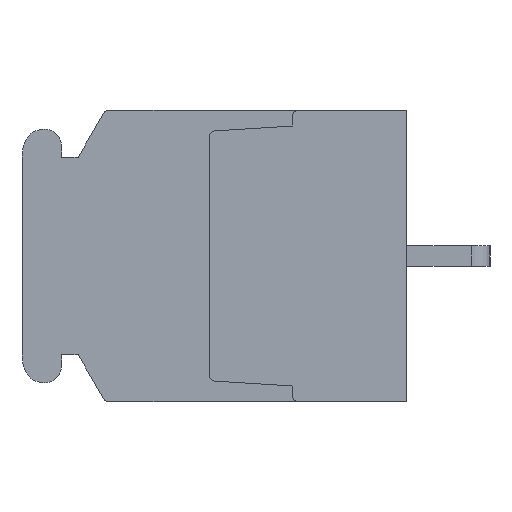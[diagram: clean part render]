
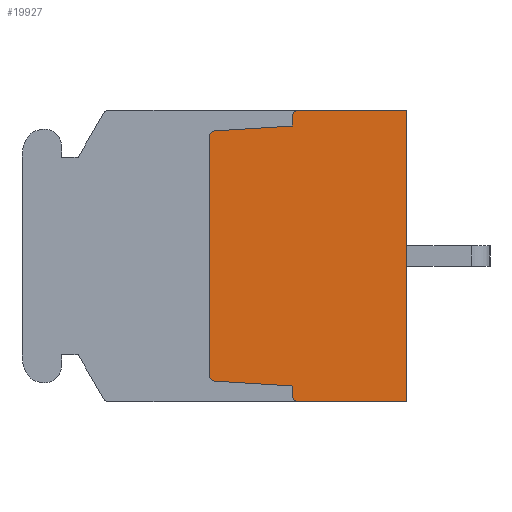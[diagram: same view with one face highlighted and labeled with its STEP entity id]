
A CAD part, left-side view. The second image highlights one B-rep face of the part: STEP entity #19927.
In plain terms, the highlighted planar face has unit normal (-1, 0, 0).
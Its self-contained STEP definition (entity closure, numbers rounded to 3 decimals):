
#970=CIRCLE('',#21394,0.3);
#971=CIRCLE('',#21395,0.3);
#972=CIRCLE('',#21396,0.3);
#973=CIRCLE('',#21397,0.3);
#1974=VERTEX_POINT('',#28392);
#1975=VERTEX_POINT('',#28394);
#1979=VERTEX_POINT('',#28440);
#1991=VERTEX_POINT('',#28467);
#2780=VERTEX_POINT('',#31447);
#2781=VERTEX_POINT('',#31448);
#2782=VERTEX_POINT('',#31450);
#2783=VERTEX_POINT('',#31452);
#2784=VERTEX_POINT('',#31454);
#2785=VERTEX_POINT('',#31456);
#2786=VERTEX_POINT('',#31459);
#2787=VERTEX_POINT('',#31461);
#3996=VECTOR('',#23461,1.);
#4036=VECTOR('',#23527,1.);
#4050=VECTOR('',#23542,1.);
#4954=VECTOR('',#25248,1.);
#4955=VECTOR('',#25251,1.);
#4956=VECTOR('',#25252,1.);
#4957=VECTOR('',#25257,1.);
#4958=VECTOR('',#25258,1.);
#6216=LINE('',#28393,#3996);
#6256=LINE('',#28468,#4036);
#6270=LINE('',#28495,#4050);
#7174=LINE('',#31449,#4954);
#7175=LINE('',#31453,#4955);
#7176=LINE('',#31455,#4956);
#7177=LINE('',#31460,#4957);
#7178=LINE('',#31462,#4958);
#8802=EDGE_CURVE('',#1974,#1975,#6216,.T.);
#8842=EDGE_CURVE('',#1991,#1979,#6256,.T.);
#8856=EDGE_CURVE('',#1979,#1974,#6270,.T.);
#10072=EDGE_CURVE('',#2780,#2781,#970,.T.);
#10073=EDGE_CURVE('',#2782,#2780,#7174,.T.);
#10074=EDGE_CURVE('',#2783,#2782,#971,.T.);
#10075=EDGE_CURVE('',#2784,#2783,#7175,.T.);
#10076=EDGE_CURVE('',#2785,#2784,#7176,.T.);
#10077=EDGE_CURVE('',#1975,#2785,#972,.T.);
#10078=EDGE_CURVE('',#2786,#1991,#973,.T.);
#10079=EDGE_CURVE('',#2787,#2786,#7177,.T.);
#10080=EDGE_CURVE('',#2781,#2787,#7178,.T.);
#15582=ORIENTED_EDGE('',*,*,#10072,.F.);
#15583=ORIENTED_EDGE('',*,*,#10073,.F.);
#15584=ORIENTED_EDGE('',*,*,#10074,.F.);
#15585=ORIENTED_EDGE('',*,*,#10075,.F.);
#15586=ORIENTED_EDGE('',*,*,#10076,.F.);
#15587=ORIENTED_EDGE('',*,*,#10077,.F.);
#15588=ORIENTED_EDGE('',*,*,#8802,.F.);
#15589=ORIENTED_EDGE('',*,*,#8856,.F.);
#15590=ORIENTED_EDGE('',*,*,#8842,.F.);
#15591=ORIENTED_EDGE('',*,*,#10078,.F.);
#15592=ORIENTED_EDGE('',*,*,#10079,.F.);
#15593=ORIENTED_EDGE('',*,*,#10080,.F.);
#17599=EDGE_LOOP('',(#15582,#15583,#15584,#15585,#15586,#15587,#15588,#15589,
#15590,#15591,#15592,#15593));
#18803=FACE_BOUND('',#17599,.T.);
#19927=ADVANCED_FACE('',(#18803),#33617,.F.);
#21393=AXIS2_PLACEMENT_3D('',#31445,#25245,$);
#21394=AXIS2_PLACEMENT_3D('',#31446,#25246,#25247);
#21395=AXIS2_PLACEMENT_3D('',#31451,#25249,#25250);
#21396=AXIS2_PLACEMENT_3D('',#31457,#25253,#25254);
#21397=AXIS2_PLACEMENT_3D('',#31458,#25255,#25256);
#23461=DIRECTION('',(0.,1.,0.));
#23527=DIRECTION('',(0.,-1.,0.));
#23542=DIRECTION('',(0.,0.,-1.));
#25245=DIRECTION('',(1.,0.,0.));
#25246=DIRECTION('',(1.,0.,0.));
#25247=DIRECTION('',(0.,0.,-0.3));
#25248=DIRECTION('',(0.,0.,1.));
#25249=DIRECTION('',(1.,0.,0.));
#25250=DIRECTION('',(0.,0.,-0.3));
#25251=DIRECTION('',(0.,0.998,0.062));
#25252=DIRECTION('',(0.,0.,1.));
#25253=DIRECTION('',(1.,0.,0.));
#25254=DIRECTION('',(0.,0.,-0.3));
#25255=DIRECTION('',(1.,0.,0.));
#25256=DIRECTION('',(0.,0.,-0.3));
#25257=DIRECTION('',(0.,0.,1.));
#25258=DIRECTION('',(0.,-0.998,0.062));
#28392=CARTESIAN_POINT('',(0.,0.,-7.));
#28393=CARTESIAN_POINT('',(0.,0.,-7.));
#28394=CARTESIAN_POINT('',(0.,5.2,-7.));
#28440=CARTESIAN_POINT('',(0.,0.,7.));
#28467=CARTESIAN_POINT('',(0.,5.2,7.));
#28468=CARTESIAN_POINT('',(0.,5.2,7.));
#28495=CARTESIAN_POINT('',(0.,0.,7.));
#31445=CARTESIAN_POINT('',(0.,4.541,0.));
#31446=CARTESIAN_POINT('',(0.,9.2,5.718));
#31447=CARTESIAN_POINT('',(0.,9.5,5.718));
#31448=CARTESIAN_POINT('',(0.,9.219,6.018));
#31449=CARTESIAN_POINT('',(0.,9.5,-5.718));
#31450=CARTESIAN_POINT('',(0.,9.5,-5.718));
#31451=CARTESIAN_POINT('',(0.,9.2,-5.718));
#31452=CARTESIAN_POINT('',(0.,9.219,-6.018));
#31453=CARTESIAN_POINT('',(0.,5.5,-6.25));
#31454=CARTESIAN_POINT('',(0.,5.5,-6.25));
#31455=CARTESIAN_POINT('',(0.,5.5,-6.7));
#31456=CARTESIAN_POINT('',(0.,5.5,-6.7));
#31457=CARTESIAN_POINT('',(0.,5.2,-6.7));
#31458=CARTESIAN_POINT('',(0.,5.2,6.7));
#31459=CARTESIAN_POINT('',(0.,5.5,6.7));
#31460=CARTESIAN_POINT('',(0.,5.5,6.25));
#31461=CARTESIAN_POINT('',(0.,5.5,6.25));
#31462=CARTESIAN_POINT('',(0.,9.219,6.018));
#33617=PLANE('',#21393);
